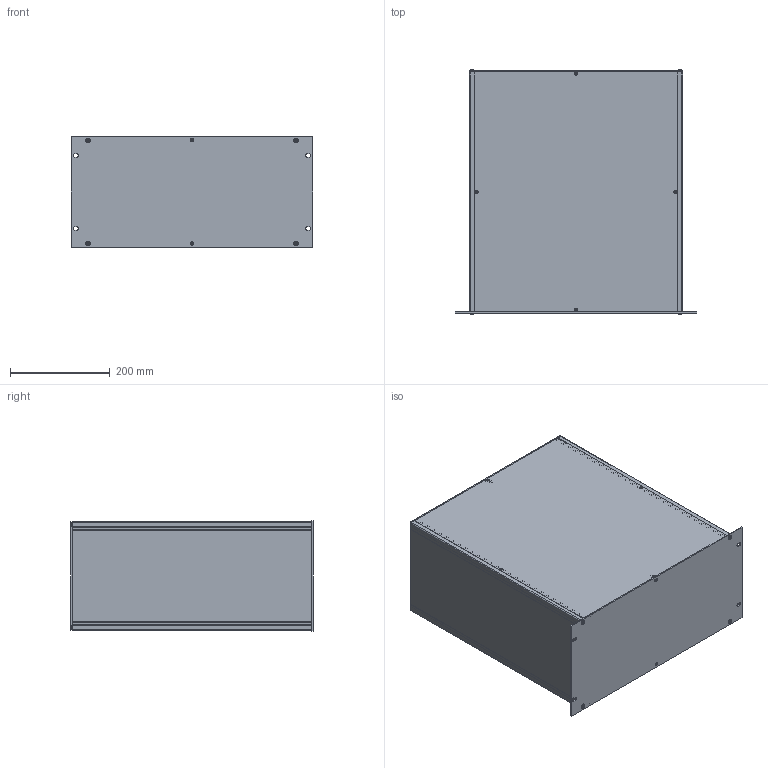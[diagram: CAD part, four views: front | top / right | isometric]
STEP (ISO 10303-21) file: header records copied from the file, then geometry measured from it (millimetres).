
FILE_DESCRIPTION(/* description */ (''),/* implementation_level */ '2;1');
FILE_NAME(/* name */ '//diskstation/Kunden/Gehäuse/Gehäuse/5HE/step/19 Zoll 5HE Rack Gehäuse Tiefe-480.step',/* time_stamp */ '2022-02-17T16:23:54+01:00',/* author */ (''),/* organization */ (''),/* preprocessor_version */ 'ST-DEVELOPER v18.1',/* originating_system */ 'Autodesk Translation Framework v10.10.0.1391',/* authorisation */ '');
FILE_SCHEMA (('AUTOMOTIVE_DESIGN { 1 0 10303 214 3 1 1 }'));
Length unit declared in the file: millimetre
Products named in the file (28): 5HE Gehäuse mit parametern; Gehäuse; Gehäuseprofil 1 unten links; Gehäuseprofil 2 oben rechts; Gehäuseprofil 1 unten rechts; Gehäuseprofil 2 oben links; Rückplatte; Deckel; Seitenteil links; Seitenteil rechts; Bodenplatte; Montageklotz Front/Deckel; Montageklotz Front/Boden; Montageklotz Rück/Deckel; Montageklotz Rück/Boden; Gewindestreifen; Frontplatte; Schrauben M5; Schraube Front; Schraube Front (1); Schraube Front (2); Schraube Front (3); Schraube Rück (1); Schraube Rück; Schraube Rück (2); Schraube Rück (3); Schrauben M3; HI_Senkschraube DIN 965 A v2 M3x5 24677.030.005(High)
Assembly tree (37 placements, depth 3):
  5HE Gehäuse mit parametern
    Gehäuse
      Gehäuseprofil 1 unten links
      Gehäuseprofil 2 oben rechts
      Gehäuseprofil 1 unten rechts
      Gehäuseprofil 2 oben links
      Rückplatte
      Deckel
      Seitenteil links
      Seitenteil rechts
      Bodenplatte
      Montageklotz Front/Deckel
      Montageklotz Front/Boden
      Montageklotz Rück/Deckel
      Montageklotz Rück/Boden
      Gewindestreifen  x2
    Frontplatte
    Schrauben M5
      Schraube Front
      Schraube Front (1)
      Schraube Front (2)
      Schraube Front (3)
      Schraube Rück (1)
      Schraube Rück
      Schraube Rück (2)
      Schraube Rück (3)
    Schrauben M3
      HI_Senkschraube DIN 965 A v2 M3x5 24677.030.005(High)  x10
Bounding box: 483 x 488.2 x 221.4 mm (x, y, z)
Volume: 2039559.8 mm3; surface area: 1772843.3 mm2
Topology: 34 solids, 34 shells, 944 faces, 2346 edges, 1470 vertices
Faces by surface type: cylinder 422, plane 342, cone 164, torus 8, bspline 8
Full cylindrical faces by diameter (mm): 2.529 x180, 3 x10, 3.2 x10, 4.234 x40, 5 x8, 5.2 x4, 5.3 x8, 5.6 x10, 9.5 x8
Entity records: 18600 total; most frequent: CARTESIAN_POINT 3348, DIRECTION 3135, ORIENTED_EDGE 2760, EDGE_CURVE 1380, AXIS2_PLACEMENT_3D 1195, VERTEX_POINT 868, EDGE_LOOP 866, LINE 745
